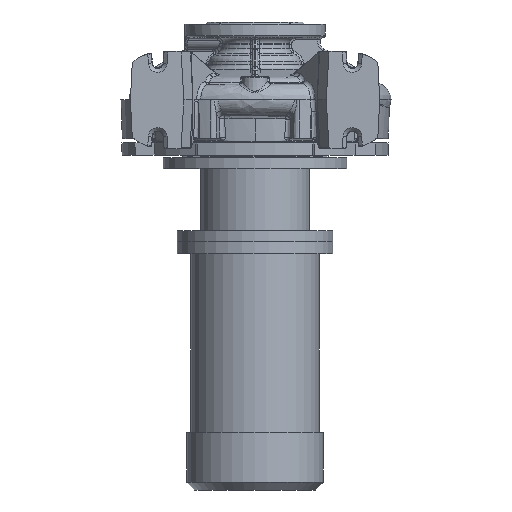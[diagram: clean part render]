
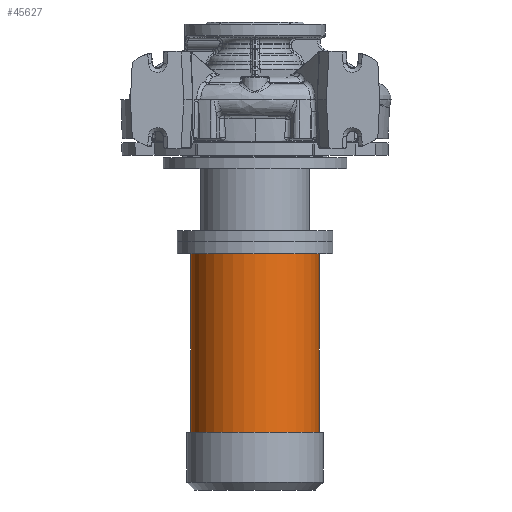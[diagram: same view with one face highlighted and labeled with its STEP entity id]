
A CAD part, front view. The second image highlights one B-rep face of the part: STEP entity #45627.
In plain terms, the highlighted cylindrical face has radius 82.5 mm (diameter 165 mm), a partial arc.
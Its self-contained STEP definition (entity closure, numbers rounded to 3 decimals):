
#2518 = ORIENTED_EDGE ( 'NONE', *, *, #4067, .F. ) ;
#4067 = EDGE_CURVE ( 'NONE', #67346, #18249, #12595, .T. ) ;
#6320 = CARTESIAN_POINT ( 'NONE',  ( -82.5, 0., -426.8 ) ) ;
#10989 = AXIS2_PLACEMENT_3D ( 'NONE', #21444, #55133, #35020 ) ;
#12595 = CIRCLE ( 'NONE', #26528, 82.5 ) ;
#13019 = FACE_OUTER_BOUND ( 'NONE', #76962, .T. ) ;
#17460 = ORIENTED_EDGE ( 'NONE', *, *, #43974, .T. ) ;
#18019 = VERTEX_POINT ( 'NONE', #83130 ) ;
#18249 = VERTEX_POINT ( 'NONE', #6320 ) ;
#21444 = CARTESIAN_POINT ( 'NONE',  ( 0., 0., -500.8 ) ) ;
#24867 = CARTESIAN_POINT ( 'NONE',  ( 0., 0., -426.8 ) ) ;
#26528 = AXIS2_PLACEMENT_3D ( 'NONE', #24867, #59136, #66115 ) ;
#35020 = DIRECTION ( 'NONE',  ( -1., 0., 0. ) ) ;
#43974 = EDGE_CURVE ( 'NONE', #67296, #18249, #57108, .T. ) ;
#45627 = ADVANCED_FACE ( 'NONE', ( #13019 ), #75394, .T. ) ;
#46732 = CARTESIAN_POINT ( 'NONE',  ( -82.5, 0., -197.3 ) ) ;
#49755 = DIRECTION ( 'NONE',  ( 0., 0., -1. ) ) ;
#50414 = VECTOR ( 'NONE', #49755, 1000. ) ;
#50972 = CARTESIAN_POINT ( 'NONE',  ( 82.5, 0., -500.8 ) ) ;
#52674 = DIRECTION ( 'NONE',  ( 0., 0., -1. ) ) ;
#55133 = DIRECTION ( 'NONE',  ( 0., 0., -1. ) ) ;
#55787 = LINE ( 'NONE', #50972, #50414 ) ;
#57108 = LINE ( 'NONE', #79668, #74345 ) ;
#59136 = DIRECTION ( 'NONE',  ( 0., 0., -1. ) ) ;
#63279 = ORIENTED_EDGE ( 'NONE', *, *, #63828, .T. ) ;
#63828 = EDGE_CURVE ( 'NONE', #18019, #67296, #74342, .T. ) ;
#66115 = DIRECTION ( 'NONE',  ( -1., 0., 0. ) ) ;
#67296 = VERTEX_POINT ( 'NONE', #46732 ) ;
#67346 = VERTEX_POINT ( 'NONE', #77962 ) ;
#68217 = AXIS2_PLACEMENT_3D ( 'NONE', #87334, #73567, #87613 ) ;
#73567 = DIRECTION ( 'NONE',  ( 0., 0., -1. ) ) ;
#74342 = CIRCLE ( 'NONE', #68217, 82.5 ) ;
#74345 = VECTOR ( 'NONE', #52674, 1000. ) ;
#75394 = CYLINDRICAL_SURFACE ( 'NONE', #10989, 82.5 ) ;
#76962 = EDGE_LOOP ( 'NONE', ( #83680, #63279, #17460, #2518 ) ) ;
#77962 = CARTESIAN_POINT ( 'NONE',  ( 82.5, 0., -426.8 ) ) ;
#79668 = CARTESIAN_POINT ( 'NONE',  ( -82.5, 0., -500.8 ) ) ;
#83130 = CARTESIAN_POINT ( 'NONE',  ( 82.5, 0., -197.3 ) ) ;
#83680 = ORIENTED_EDGE ( 'NONE', *, *, #84104, .F. ) ;
#84104 = EDGE_CURVE ( 'NONE', #18019, #67346, #55787, .T. ) ;
#87334 = CARTESIAN_POINT ( 'NONE',  ( 0., 0., -197.3 ) ) ;
#87613 = DIRECTION ( 'NONE',  ( -1., 0., 0. ) ) ;
